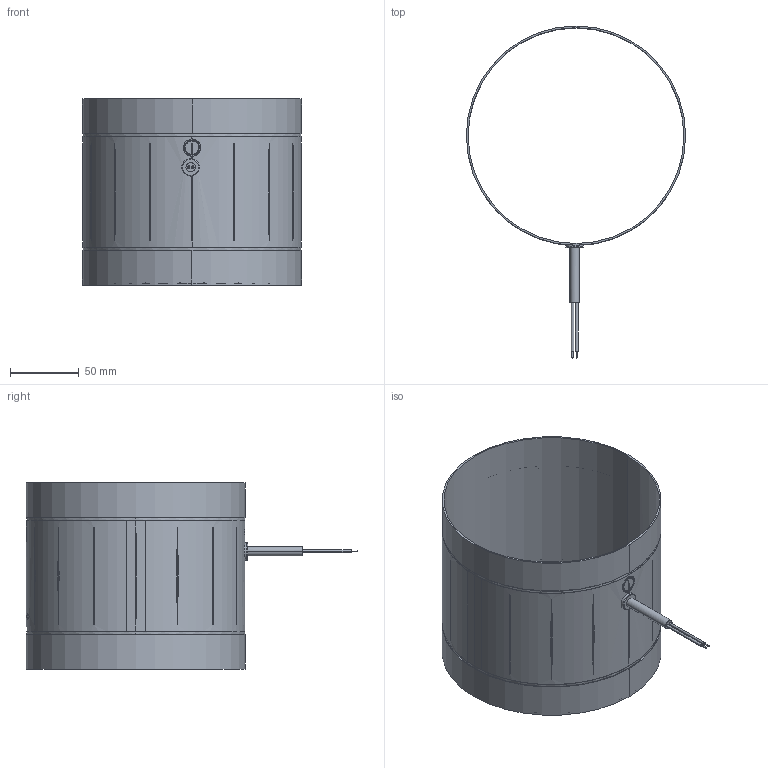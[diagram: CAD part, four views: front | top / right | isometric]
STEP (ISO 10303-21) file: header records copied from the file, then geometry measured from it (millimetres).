
FILE_DESCRIPTION (( 'STEP AP203' ), '1' );
FILE_NAME ('137612-00_EM160E201.STEP', '2016-12-06T13:43:19', ( '' ), ( '' ), 'SwSTEP 2.0', 'SolidWorks 2012', '' );
FILE_SCHEMA (( 'CONFIG_CONTROL_DESIGN' ));
Length unit declared in the file: millimetre
Products named in the file (1): 137612-00_EM160E201
Bounding box: 159 x 240.7 x 135 mm (x, y, z)
Surface area: 137150.5 mm2 (no closed solid volume)
Topology: 0 solids, 4 shells, 123 faces, 409 edges, 278 vertices
Faces by surface type: cylinder 52, bspline 39, plane 24, torus 6, cone 2
Entity records: 6611 total; most frequent: CARTESIAN_POINT 3437, ORIENTED_EDGE 632, DIRECTION 551, EDGE_CURVE 409, VERTEX_POINT 278, AXIS2_PLACEMENT_3D 237, B_SPLINE_CURVE_WITH_KNOTS 168, CIRCLE 152
